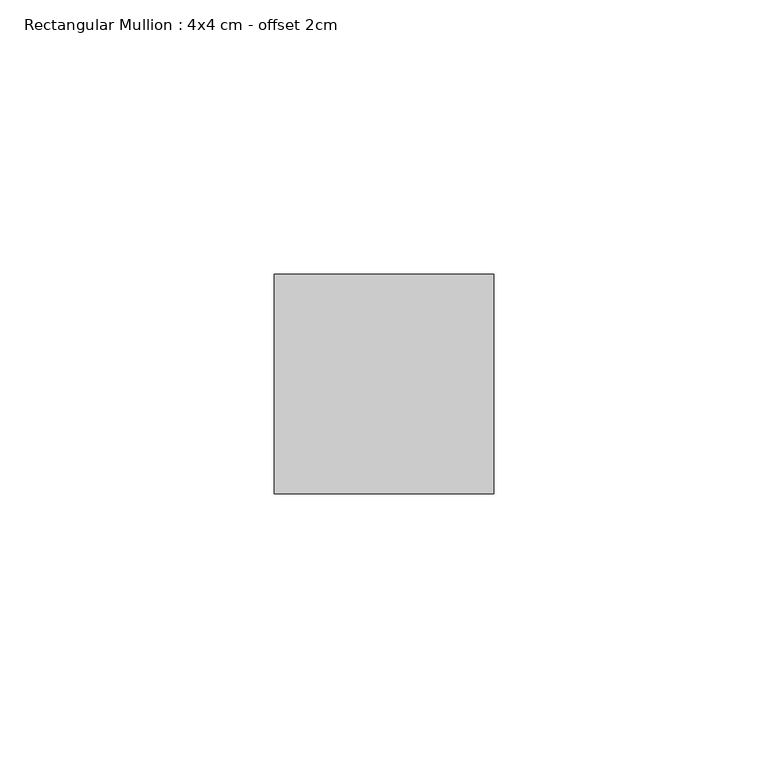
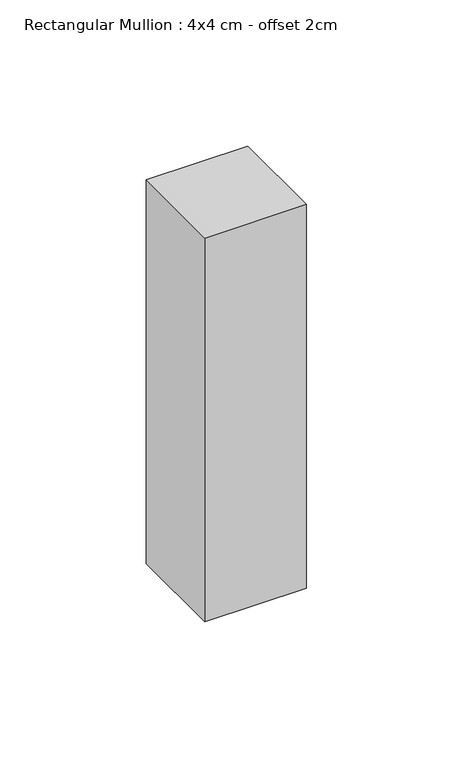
"""IFC4 building model written with IfcOpenShell, lengths in millimetres: member geometry, Rectangular Mullion : 4x4 cm - offset 2cm."""

from ifc_helpers import new_model, si_unit, frame, origin, place, context, project, spatial, polyline, outline, extrude, source, transform, mapped, element, save


def rectangular_mullion_4x4_cm_offset_2cm_f24be0eb(model_context):
    return source(origin(), model_context, "Body", "SweptSolid", [
        extrude(outline(polyline([(0.0, 40.0), (0.0, 0.0), (-40.0, 0.0), (-40.0, 40.0), (0.0, 40.0)])), frame((0.0, 0.0, -160.0), z_axis=(0.0, 0.0, 1.0), x_axis=(1.0, 0.0, 0.0)), (0.0, 0.0, 1.0), 160.0),
    ])


if __name__ == "__main__":
    model = new_model("IFC4")
    model_context = context("Model", 3, world=origin())
    ifc_project = project(units=[si_unit("LENGTHUNIT", "METRE", prefix="MILLI")], contexts=[model_context])
    site = spatial("IfcSite", under=ifc_project)
    building = spatial("IfcBuilding", under=site)
    placement = place(None, origin())
    rectangular_mullion_4x4_cm_offset_2cm_shape = rectangular_mullion_4x4_cm_offset_2cm_f24be0eb(model_context)
    element("IfcMember", 1, ObjectType="Rectangular Mullion : 4x4 cm - offset 2cm", at=placement, inside=building, context=model_context, shape_type="MappedRepresentation", body=[
        mapped(rectangular_mullion_4x4_cm_offset_2cm_shape, transform((0.0, 0.0, 0.0), x_axis=(1.0, 0.0, 0.0), y_axis=(0.0, 1.0, 0.0), z_axis=(0.0, 0.0, 1.0))),
    ])
    save(model, "model.ifc")
